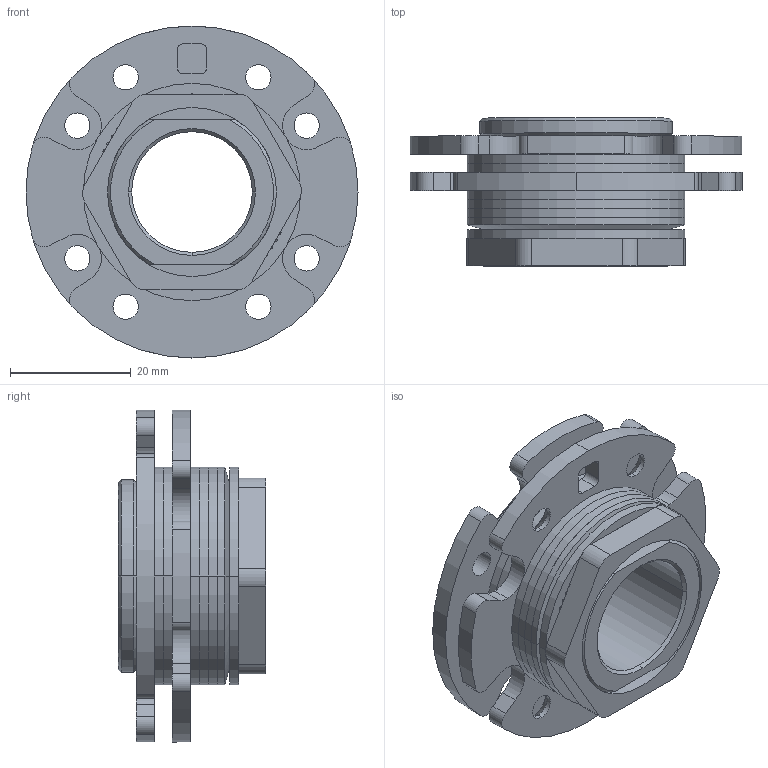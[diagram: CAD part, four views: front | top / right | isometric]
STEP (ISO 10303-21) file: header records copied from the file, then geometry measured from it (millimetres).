
FILE_DESCRIPTION (( 'STEP AP203' ), '1' );
FILE_NAME ('XG11-104.STEP', '2025-10-25T00:36:26', ( '微软用户' ), ( '微软中国' ), 'SwSTEP 2.0', 'SolidWorks 2024', '' );
FILE_SCHEMA (( 'CONFIG_CONTROL_DESIGN' ));
Length unit declared in the file: millimetre
Products named in the file (5): XG11-104; XG11-104NUT; XG11-104WASER2; XG11-104WASER1
Assembly tree (7 placements, depth 2):
  XG11-104
    XG11-104
    XG11-104WASER1  x4
    XG11-104NUT
    XG11-104WASER2
Bounding box: 55 x 24.5 x 55 mm (x, y, z)
Volume: 21112.5 mm3; surface area: 22300.7 mm2
Topology: 11 solids, 11 shells, 1083 faces, 5751 edges, 3828 vertices
Faces by surface type: sphere 864, cylinder 117, plane 72, cone 30
Entity records: 19659 total; most frequent: DIRECTION 3740, CARTESIAN_POINT 3212, ORIENTED_EDGE 2736, AXIS2_PLACEMENT_3D 1742, EDGE_CURVE 1368, VERTEX_POINT 1194, CIRCLE 1108, EDGE_LOOP 1094
